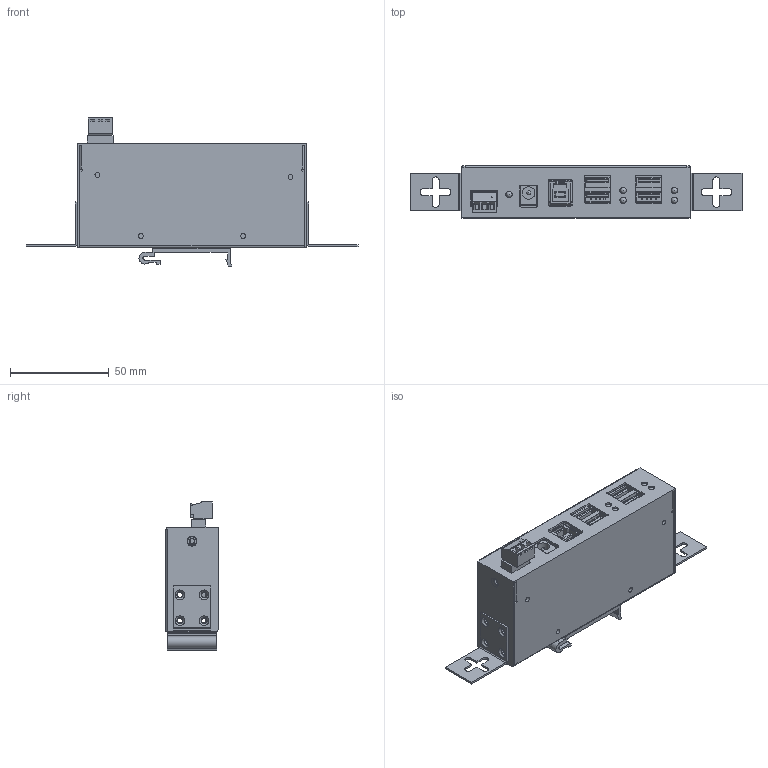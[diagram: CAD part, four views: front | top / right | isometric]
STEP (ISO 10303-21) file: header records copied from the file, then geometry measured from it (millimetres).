
FILE_DESCRIPTION(/* description */ (''),/* implementation_level */ '2;1');
FILE_NAME(/* name */ 'C:/Users/Leo/Desktop/GM-HU34DW/GM-HU34DW Model3d LPV1.step',/* time_stamp */ '2021-04-14T11:13:51-04:00',/* author */ (''),/* organization */ (''),/* preprocessor_version */ 'ST-DEVELOPER v18.1',/* originating_system */ 'Autodesk Translation Framework v10.6.0.1341',/* authorisation */ '');
FILE_SCHEMA (('AUTOMOTIVE_DESIGN { 1 0 10303 214 3 1 1 }'));
Products named in the file (6): GM-HU34DW; mountin plate; mounting plate; clip; Terminal 3 Connector 3.5 v1; Component57
Assembly tree (5 placements, depth 2):
  GM-HU34DW
    mountin plate
    mounting plate
    clip
    Terminal 3 Connector 3.5 v1
    Component57
Bounding box: 168.52 x 26.4 x 75.13 mm (x, y, z)
Volume: 45929.9 mm3; surface area: 73976.6 mm2
Topology: 5 solids, 7 shells, 3332 faces, 9386 edges, 6171 vertices
Faces by surface type: cylinder 1924, plane 1268, torus 55, bspline 38, sphere 26, cone 21
Full cylindrical faces by diameter (mm): 1.2 x3, 2 x7, 2.5 x7, 2.529 x12, 2.8 x6, 3 x5, 3.2 x9, 3.3 x4, 4.5 x7, 5 x4, 6 x1, 6.3 x1, 8 x1
Entity records: 113982 total; most frequent: CARTESIAN_POINT 23916, DIRECTION 19720, ORIENTED_EDGE 18720, EDGE_CURVE 9360, AXIS2_PLACEMENT_3D 7244, VERTEX_POINT 6171, LINE 5232, VECTOR 5232
